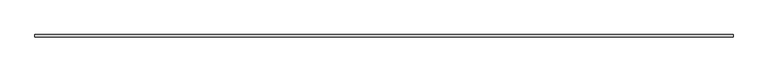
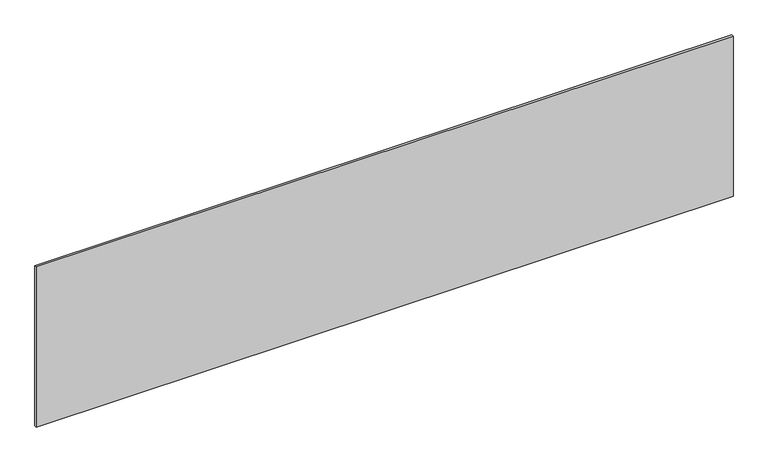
"""IFC4 building model written with IfcOpenShell, lengths in millimetres: plate geometry, Curtain-Panels_Outdoor-Material_HI-MACS_Solids : S006_Artic-White_12mm."""

from ifc_helpers import new_model, si_unit, origin, origin_with_axes, place, context, project, spatial, polyline, outline, extrude, source, transform, mapped, element, save


def plate_547342df(model_context):
    return source(origin(), model_context, "Body", "SweptSolid", [
        extrude(outline(polyline([(1840.0, 6.0), (1840.0, -6.0), (-1840.0, -6.0), (-1840.0, 6.0), (1840.0, 6.0)])), origin_with_axes(), (0.0, 0.0, 1.0), 893.5112313),
    ])


if __name__ == "__main__":
    model = new_model("IFC4")
    model_context = context("Model", 3, world=origin())
    ifc_project = project(units=[si_unit("LENGTHUNIT", "METRE", prefix="MILLI")], contexts=[model_context])
    site = spatial("IfcSite", under=ifc_project)
    building = spatial("IfcBuilding", under=site)
    placement = place(None, origin())
    plate_shape = plate_547342df(model_context)
    element("IfcPlate", 1, ObjectType="Curtain-Panels_Outdoor-Material_HI-MACS_Solids : S006_Artic-White_12mm", at=placement, inside=building, context=model_context, shape_type="MappedRepresentation", body=[
        mapped(plate_shape, transform((0.0, 0.0, 0.0), x_axis=(1.0, 0.0, 0.0), y_axis=(0.0, 1.0, 0.0), z_axis=(0.0, 0.0, 1.0))),
    ])
    save(model, "model.ifc")
